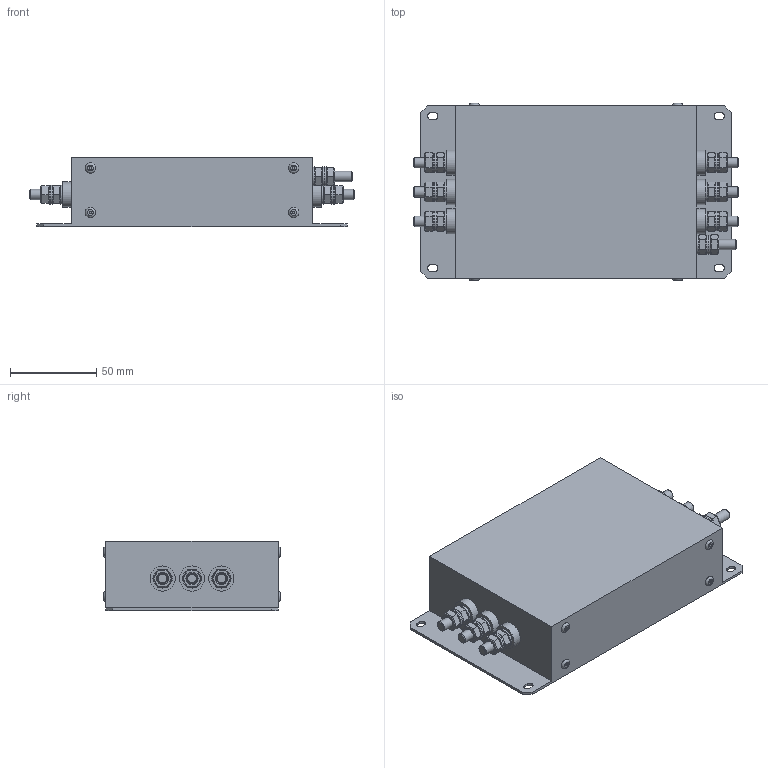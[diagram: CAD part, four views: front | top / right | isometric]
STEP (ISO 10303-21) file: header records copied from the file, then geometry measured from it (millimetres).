
FILE_DESCRIPTION(('STEP AP203'), '1');
FILE_NAME('IEF-7.5_20.5-4 (òèï 6) ÑÁ ', '', ('UNSPECIFIED'), ('UNSPECIFIED'), 'C3D Converter', 'C3D Toolkit', '');
FILE_SCHEMA(('CONFIG_CONTROL_DESIGN'));
Length unit declared in the file: millimetre
Products named in the file (6): IEF-11_26-4; IEF-7.5_20.5-4
Assembly tree (50 placements, depth 2):
  IEF-11_26-4
    IEF-7.5_20.5-4
    IEF-7.5_20.5-4  x6
    IEF-7.5_20.5-4  x21
    IEF-7.5_20.5-4  x14
    IEF-7.5_20.5-4  x8
Bounding box: 188 x 102.6 x 40 mm (x, y, z)
Volume: 580158.5 mm3; surface area: 71658.8 mm2
Topology: 50 solids, 50 shells, 529 faces, 1039 edges, 625 vertices
Faces by surface type: plane 387, cylinder 99, cone 35, torus 8
Full cylindrical faces by diameter (mm): 1.5 x8, 2.25 x8, 6 x48, 11 x21, 14.6 x6
Entity records: 4159 total; most frequent: DIRECTION 498, CARTESIAN_POINT 423, ORIENTED_EDGE 330, AXIS2_PLACEMENT_3D 194, EDGE_CURVE 165, EDGE_LOOP 136, VERTEX_POINT 119, DATE_AND_TIME 112
